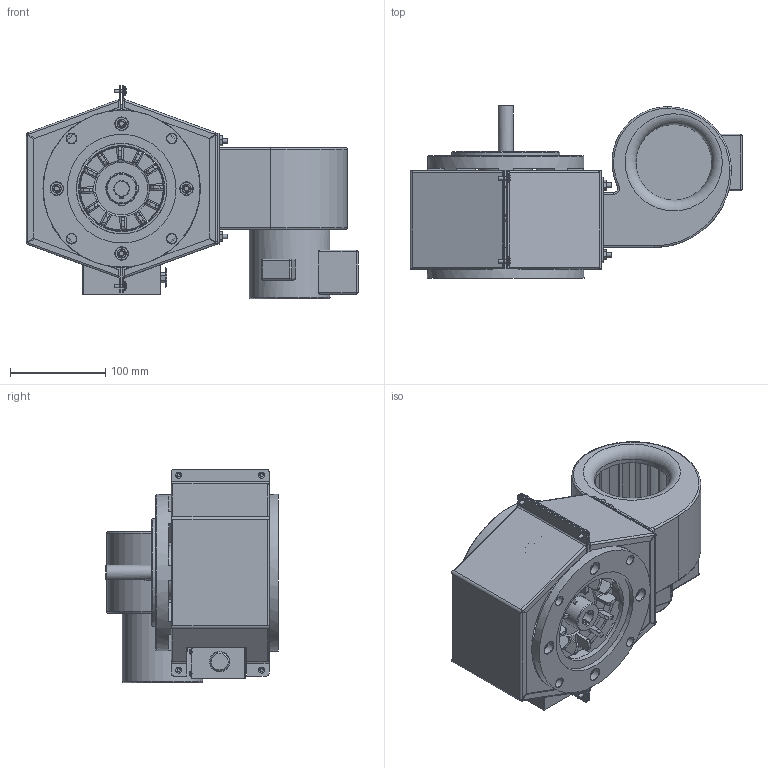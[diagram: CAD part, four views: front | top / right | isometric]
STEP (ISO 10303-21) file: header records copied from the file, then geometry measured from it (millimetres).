
FILE_DESCRIPTION(/* description */ ('STEP AP214'),/* implementation_level */ '2;1');
FILE_NAME(/* name */ '7MCA90C_stp.step',/* time_stamp */ '2026-05-12T14:52:19-05:00',/* author */ (''),/* organization */ (''),/* preprocessor_version */ 'ST-DEVELOPER v20.1',/* originating_system */ 'Autodesk Translation Framework v15.8.0.0',/* authorisation */ '');
FILE_SCHEMA (('AUTOMOTIVE_DESIGN { 1 0 10303 214 3 1 1 }'));
Products named in the file (1): 7MCA90C_asm_stp
Bounding box: 349.41 x 181.69 x 224.92 mm (x, y, z)
Volume: 2495485.1 mm3; surface area: 751780.1 mm2
Topology: 4 solids, 27 shells, 3025 faces, 7642 edges, 4609 vertices
Faces by surface type: plane 1185, cylinder 757, torus 410, cone 258, bspline 239, sphere 176
Full cylindrical faces by diameter (mm): 1.321 x2, 1.981 x2, 2.261 x4, 2.845 x4, 3.451 x4, 3.734 x4, 4.826 x8, 4.902 x4, 5.105 x9, 5.563 x4, 6.35 x18, 7.137 x4, 7.144 x8, 7.938 x4, 9.474 x4, 9.525 x8, 10.319 x4, 12.7 x1, 13.494 x8, 15.875 x1, 18.618 x1, 20.008 x3, 21.336 x2, 26.153 x4, 26.703 x2, 28.575 x2, 31.75 x1, 33.337 x1, 36.512 x1, 37.38 x4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
Entity records: 100024 total; most frequent: CARTESIAN_POINT 26956, DIRECTION 16288, ORIENTED_EDGE 15176, EDGE_CURVE 7588, AXIS2_PLACEMENT_3D 6712, VERTEX_POINT 4609, CIRCLE 3396, EDGE_LOOP 3227
